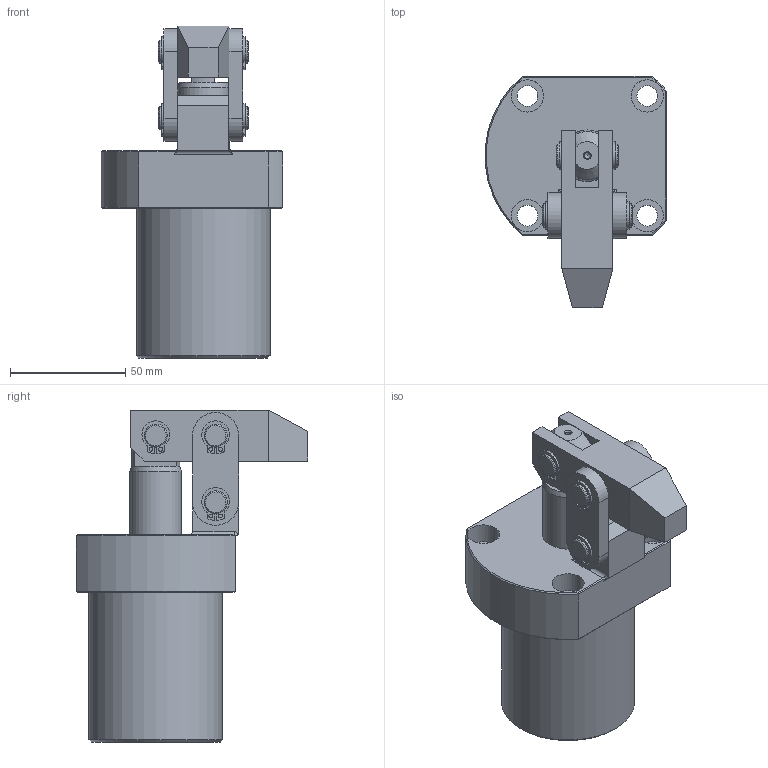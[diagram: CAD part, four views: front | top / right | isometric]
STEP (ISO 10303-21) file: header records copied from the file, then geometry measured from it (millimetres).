
FILE_DESCRIPTION(/* description */ ('Unknown'),/* implementation_level */ '2;1');
FILE_NAME(/* name */ 'HLC-FAM40-R-A',/* time_stamp */ '2022-11-23T03:16:17+08:00',/* author */ ('Unknown'),/* organization */ ('Unknown'),/* preprocessor_version */ 'ST-DEVELOPER v16.7',/* originating_system */ 'DEX',/* authorisation */ $);
FILE_SCHEMA (('AUTOMOTIVE_DESIGN {1 0 10303 214 3 1 1}'));
Length unit declared in the file: millimetre
Products named in the file (8): HLC-FAM40-R-A; HLC-FAM40-R-CYLINDER; HLC-4002-AXLE CENTRE; HLC-40-A; HLC-40-墊; HLC-40-PINµu-; HLC-40-PINªø; HLC-40-CΙ忀
Assembly tree (14 placements, depth 2):
  HLC-FAM40-R-A
    HLC-FAM40-R-CYLINDER
    HLC-4002-AXLE CENTRE
    HLC-40-A
    HLC-40-墊  x2
    HLC-40-PINµu-
    HLC-40-PINªø  x2
    HLC-40-CΙ忀  x6
Bounding box: 78.86 x 100.5 x 144.2 mm (x, y, z)
Volume: 319388.8 mm3; surface area: 71236.2 mm2
Topology: 14 solids, 14 shells, 264 faces, 603 edges, 394 vertices
Faces by surface type: cylinder 123, plane 117, cone 22, torus 2
Full cylindrical faces by diameter (mm): 1.7 x12, 2.496 x1, 3 x2, 4.1 x2, 9 x4, 9.5 x6, 10 x18, 12 x2, 14 x4, 22.4 x2, 39.5 x1, 40 x1, 58 x1
Entity records: 4380 total; most frequent: DIRECTION 765, CARTESIAN_POINT 732, ORIENTED_EDGE 568, AXIS2_PLACEMENT_3D 321, EDGE_CURVE 284, FACE_BOUND 266, EDGE_LOOP 265, VERTEX_POINT 212
